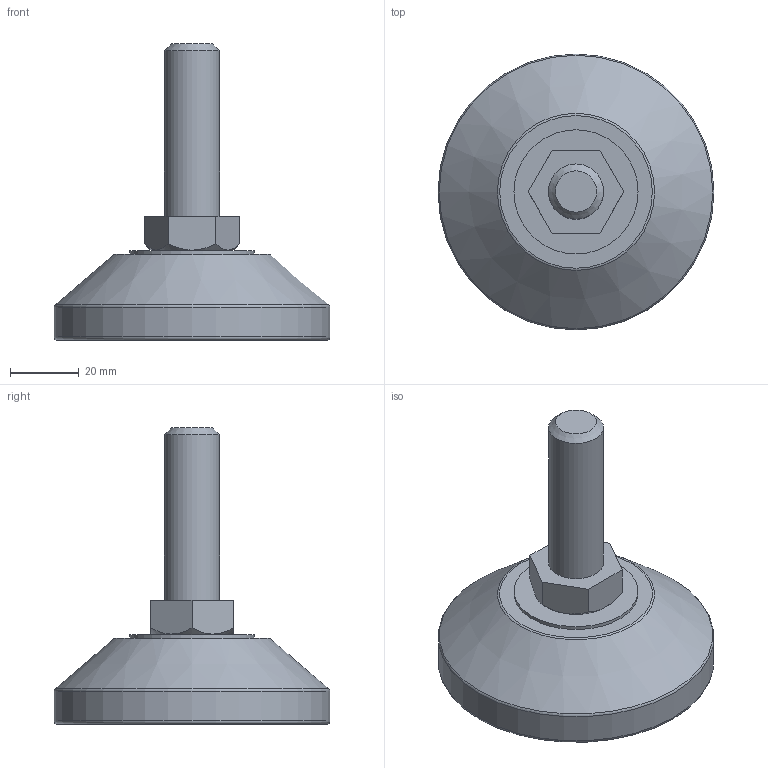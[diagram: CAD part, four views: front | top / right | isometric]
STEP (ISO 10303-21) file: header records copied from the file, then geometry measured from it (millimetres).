
FILE_DESCRIPTION(/* description */ (''),/* implementation_level */ '2;1');
FILE_NAME(/* name */ 'D:\조절자\F\F-M16-50L.stp',/* time_stamp */ '2016-03-14T14:31:54+09:00',/* author */ ('GS-DT-1-001'),/* organization */ (''),/* preprocessor_version */ 'ST-DEVELOPER v15.6',/* originating_system */ 'Autodesk Inventor LT ',/* authorisation */ '');
FILE_SCHEMA (('AUTOMOTIVE_DESIGN { 1 0 10303 214 3 1 1 }'));
Length unit declared in the file: millimetre
Products named in the file (1): F-M16-50L
Bounding box: 80 x 80 x 86 mm (x, y, z)
Volume: 82692.8 mm3; surface area: 21069.3 mm2
Topology: 1 solids, 2 shells, 46 faces, 82 edges, 50 vertices
Faces by surface type: plane 20, cylinder 13, cone 9, torus 4
Full cylindrical faces by diameter (mm): 6.912 x1, 8 x1, 8.2 x1, 8.3 x1, 16 x2, 36 x1, 50 x1, 57 x1, 61 x1, 71 x1, 75 x1, 80 x1
Entity records: 988 total; most frequent: DIRECTION 180, CARTESIAN_POINT 163, ORIENTED_EDGE 110, AXIS2_PLACEMENT_3D 84, EDGE_LOOP 82, EDGE_CURVE 55, VERTEX_POINT 49, FACE_OUTER_BOUND 46
